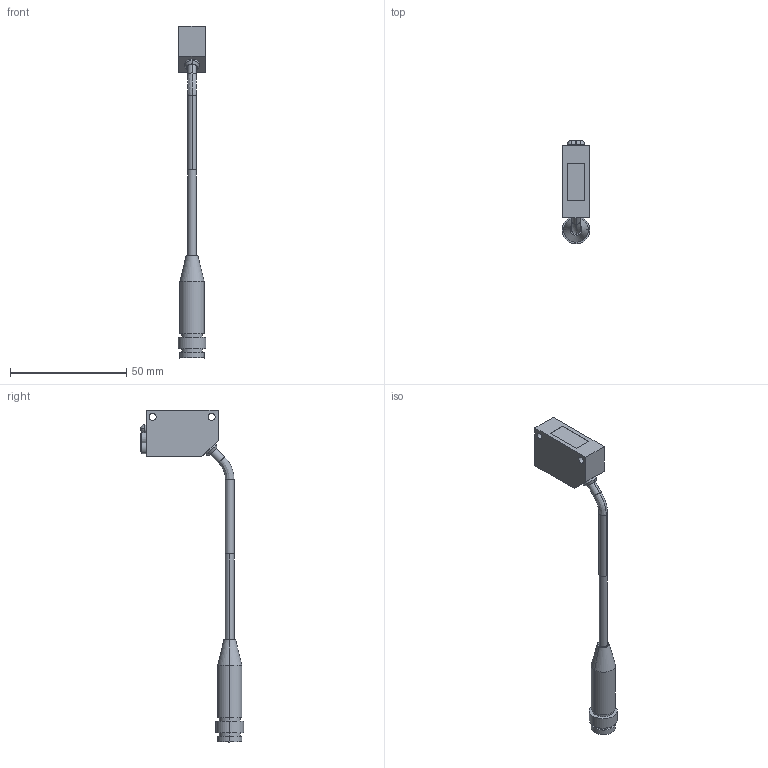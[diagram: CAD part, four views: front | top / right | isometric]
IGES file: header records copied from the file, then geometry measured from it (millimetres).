
Start section: SolidWorks IGES FILE using analytic representation for surfaces
Global section: file name: \\Intra-srv04\開発データ\CAD_Data\CAD委員会\3D電子ｶﾀﾛｸﾞ\製品カタログ（新）\0_IGES\CX-491-J.IGS,41HSolidWorks 2004; native system: by SolidWorks Corporation; preprocessor: Version 5.3; author: yk0651; date: 050905.125818; units: millimetre
Bounding box: 12 x 44.5 x 143 mm (x, y, z)
Volume: 11055.1 mm3; surface area: 5187.9 mm2
Topology: 2 solids, 2 shells, 87 faces, 201 edges, 126 vertices
Faces by surface type: revolution 51, plane 36
